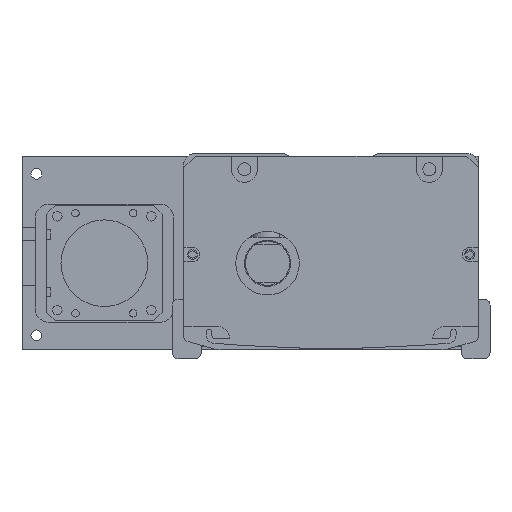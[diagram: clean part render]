
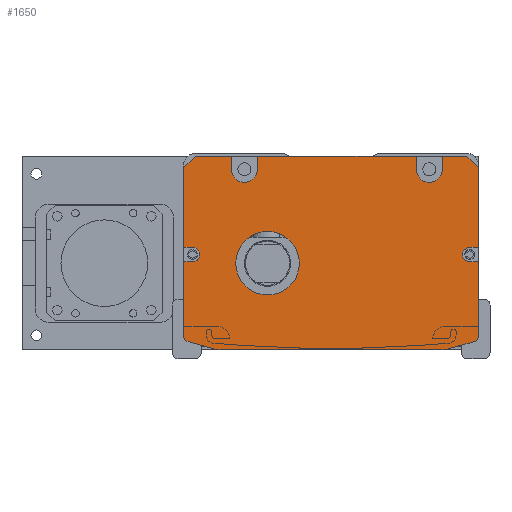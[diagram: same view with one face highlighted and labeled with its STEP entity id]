
A CAD part, front view. The second image highlights one B-rep face of the part: STEP entity #1650.
In plain terms, the highlighted planar face has unit normal (0, -1, 0).
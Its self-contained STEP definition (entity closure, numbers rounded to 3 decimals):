
#1650=ADVANCED_FACE('',(#4348,#4349),#2344,.F.);
#2344=PLANE('',#13833);
#2648=LINE('',#19323,#3453);
#2652=LINE('',#19331,#3457);
#2662=LINE('',#19352,#3467);
#2666=LINE('',#19360,#3471);
#2935=LINE('',#20353,#3740);
#2936=LINE('',#20355,#3741);
#2937=LINE('',#20357,#3742);
#2938=LINE('',#20361,#3743);
#2939=LINE('',#20363,#3744);
#2940=LINE('',#20365,#3745);
#2941=LINE('',#20369,#3746);
#2942=LINE('',#20371,#3747);
#2943=LINE('',#20373,#3748);
#2944=LINE('',#20374,#3749);
#2945=LINE('',#20378,#3750);
#2946=LINE('',#20381,#3751);
#2947=LINE('',#20385,#3752);
#2948=LINE('',#20389,#3753);
#2949=LINE('',#20392,#3754);
#2950=LINE('',#20396,#3755);
#3453=VECTOR('',#15129,1.);
#3457=VECTOR('',#15133,1.);
#3467=VECTOR('',#15145,1.);
#3471=VECTOR('',#15149,1.);
#3740=VECTOR('',#16214,1.);
#3741=VECTOR('',#16215,1.);
#3742=VECTOR('',#16216,1.);
#3743=VECTOR('',#16219,1.);
#3744=VECTOR('',#16220,1.);
#3745=VECTOR('',#16221,1.);
#3746=VECTOR('',#16224,1.);
#3747=VECTOR('',#16225,1.);
#3748=VECTOR('',#16226,1.);
#3749=VECTOR('',#16227,1.);
#3750=VECTOR('',#16230,1.);
#3751=VECTOR('',#16233,1.);
#3752=VECTOR('',#16236,1.);
#3753=VECTOR('',#16239,1.);
#3754=VECTOR('',#16242,1.);
#3755=VECTOR('',#16245,1.);
#4348=FACE_BOUND('',#5092,.T.);
#4349=FACE_BOUND('',#5093,.T.);
#5092=EDGE_LOOP('',(#7022,#7023,#7024,#7025,#7026,#7027,#7028,#7029,#7030,
#7031,#7032,#7033,#7034,#7035,#7036,#7037,#7038,#7039,#7040,#7041,#7042,
#7043,#7044,#7045,#7046,#7047,#7048,#7049));
#5093=EDGE_LOOP('',(#7050));
#7022=ORIENTED_EDGE('',*,*,#10986,.T.);
#7023=ORIENTED_EDGE('',*,*,#11470,.T.);
#7024=ORIENTED_EDGE('',*,*,#11471,.T.);
#7025=ORIENTED_EDGE('',*,*,#11472,.F.);
#7026=ORIENTED_EDGE('',*,*,#11473,.T.);
#7027=ORIENTED_EDGE('',*,*,#11474,.F.);
#7028=ORIENTED_EDGE('',*,*,#11475,.T.);
#7029=ORIENTED_EDGE('',*,*,#11476,.F.);
#7030=ORIENTED_EDGE('',*,*,#11477,.T.);
#7031=ORIENTED_EDGE('',*,*,#11478,.F.);
#7032=ORIENTED_EDGE('',*,*,#11479,.T.);
#7033=ORIENTED_EDGE('',*,*,#11480,.T.);
#7034=ORIENTED_EDGE('',*,*,#11004,.T.);
#7035=ORIENTED_EDGE('',*,*,#11481,.T.);
#7036=ORIENTED_EDGE('',*,*,#11482,.T.);
#7037=ORIENTED_EDGE('',*,*,#11483,.T.);
#7038=ORIENTED_EDGE('',*,*,#11000,.T.);
#7039=ORIENTED_EDGE('',*,*,#11484,.T.);
#7040=ORIENTED_EDGE('',*,*,#11485,.T.);
#7041=ORIENTED_EDGE('',*,*,#11486,.T.);
#7042=ORIENTED_EDGE('',*,*,#11487,.T.);
#7043=ORIENTED_EDGE('',*,*,#11488,.T.);
#7044=ORIENTED_EDGE('',*,*,#11489,.T.);
#7045=ORIENTED_EDGE('',*,*,#11490,.T.);
#7046=ORIENTED_EDGE('',*,*,#10990,.T.);
#7047=ORIENTED_EDGE('',*,*,#11491,.T.);
#7048=ORIENTED_EDGE('',*,*,#11492,.T.);
#7049=ORIENTED_EDGE('',*,*,#11493,.T.);
#7050=ORIENTED_EDGE('',*,*,#11494,.T.);
#9679=VERTEX_POINT('',#19322);
#9680=VERTEX_POINT('',#19324);
#9683=VERTEX_POINT('',#19330);
#9684=VERTEX_POINT('',#19332);
#9693=VERTEX_POINT('',#19351);
#9694=VERTEX_POINT('',#19353);
#9697=VERTEX_POINT('',#19359);
#9698=VERTEX_POINT('',#19361);
#10024=VERTEX_POINT('',#20354);
#10025=VERTEX_POINT('',#20356);
#10026=VERTEX_POINT('',#20358);
#10027=VERTEX_POINT('',#20360);
#10028=VERTEX_POINT('',#20362);
#10029=VERTEX_POINT('',#20364);
#10030=VERTEX_POINT('',#20366);
#10031=VERTEX_POINT('',#20368);
#10032=VERTEX_POINT('',#20370);
#10033=VERTEX_POINT('',#20372);
#10034=VERTEX_POINT('',#20375);
#10035=VERTEX_POINT('',#20377);
#10036=VERTEX_POINT('',#20380);
#10037=VERTEX_POINT('',#20382);
#10038=VERTEX_POINT('',#20384);
#10039=VERTEX_POINT('',#20386);
#10040=VERTEX_POINT('',#20388);
#10041=VERTEX_POINT('',#20390);
#10042=VERTEX_POINT('',#20393);
#10043=VERTEX_POINT('',#20395);
#10044=VERTEX_POINT('',#20398);
#10986=EDGE_CURVE('',#9680,#9679,#2648,.T.);
#10990=EDGE_CURVE('',#9684,#9683,#2652,.T.);
#11000=EDGE_CURVE('',#9694,#9693,#2662,.T.);
#11004=EDGE_CURVE('',#9698,#9697,#2666,.T.);
#11470=EDGE_CURVE('',#9679,#10024,#2935,.T.);
#11471=EDGE_CURVE('',#10024,#10025,#2936,.T.);
#11472=EDGE_CURVE('',#10026,#10025,#2937,.T.);
#11473=EDGE_CURVE('',#10026,#10027,#12884,.T.);
#11474=EDGE_CURVE('',#10028,#10027,#2938,.T.);
#11475=EDGE_CURVE('',#10028,#10029,#2939,.T.);
#11476=EDGE_CURVE('',#10030,#10029,#2940,.T.);
#11477=EDGE_CURVE('',#10030,#10031,#12885,.T.);
#11478=EDGE_CURVE('',#10032,#10031,#2941,.T.);
#11479=EDGE_CURVE('',#10032,#10033,#2942,.T.);
#11480=EDGE_CURVE('',#10033,#9698,#2943,.T.);
#11481=EDGE_CURVE('',#9697,#10034,#2944,.T.);
#11482=EDGE_CURVE('',#10034,#10035,#12886,.T.);
#11483=EDGE_CURVE('',#10035,#9694,#2945,.T.);
#11484=EDGE_CURVE('',#9693,#10036,#12887,.T.);
#11485=EDGE_CURVE('',#10036,#10037,#2946,.T.);
#11486=EDGE_CURVE('',#10037,#10038,#12888,.T.);
#11487=EDGE_CURVE('',#10038,#10039,#2947,.T.);
#11488=EDGE_CURVE('',#10039,#10040,#12889,.T.);
#11489=EDGE_CURVE('',#10040,#10041,#2948,.T.);
#11490=EDGE_CURVE('',#10041,#9684,#12890,.T.);
#11491=EDGE_CURVE('',#9683,#10042,#2949,.T.);
#11492=EDGE_CURVE('',#10042,#10043,#12891,.T.);
#11493=EDGE_CURVE('',#10043,#9680,#2950,.T.);
#11494=EDGE_CURVE('',#10044,#10044,#12892,.T.);
#12884=CIRCLE('',#13824,4.5);
#12885=CIRCLE('',#13825,4.5);
#12886=CIRCLE('',#13826,2.5);
#12887=CIRCLE('',#13827,2.);
#12888=CIRCLE('',#13828,10.);
#12889=CIRCLE('',#13829,10.);
#12890=CIRCLE('',#13830,2.);
#12891=CIRCLE('',#13831,2.5);
#12892=CIRCLE('',#13832,11.);
#13824=AXIS2_PLACEMENT_3D('',#20359,#16217,#16218);
#13825=AXIS2_PLACEMENT_3D('',#20367,#16222,#16223);
#13826=AXIS2_PLACEMENT_3D('',#20376,#16228,#16229);
#13827=AXIS2_PLACEMENT_3D('',#20379,#16231,#16232);
#13828=AXIS2_PLACEMENT_3D('',#20383,#16234,#16235);
#13829=AXIS2_PLACEMENT_3D('',#20387,#16237,#16238);
#13830=AXIS2_PLACEMENT_3D('',#20391,#16240,#16241);
#13831=AXIS2_PLACEMENT_3D('',#20394,#16243,#16244);
#13832=AXIS2_PLACEMENT_3D('',#20397,#16246,#16247);
#13833=AXIS2_PLACEMENT_3D('',#20399,#16248,#16249);
#15129=DIRECTION('',(0.,0.,1.));
#15133=DIRECTION('',(0.,0.,1.));
#15145=DIRECTION('',(0.,0.,-1.));
#15149=DIRECTION('',(0.,0.,-1.));
#16214=DIRECTION('',(-0.707,0.,0.707));
#16215=DIRECTION('',(-1.,0.,0.));
#16216=DIRECTION('',(0.,0.,1.));
#16217=DIRECTION('',(0.,1.,0.));
#16218=DIRECTION('',(0.,0.,1.));
#16219=DIRECTION('',(0.,0.,-1.));
#16220=DIRECTION('',(-1.,0.,0.));
#16221=DIRECTION('',(0.,0.,1.));
#16222=DIRECTION('',(0.,1.,0.));
#16223=DIRECTION('',(0.,0.,1.));
#16224=DIRECTION('',(0.,0.,-1.));
#16225=DIRECTION('',(-1.,0.,0.));
#16226=DIRECTION('',(-0.707,0.,-0.707));
#16227=DIRECTION('',(1.,0.,0.));
#16228=DIRECTION('',(0.,1.,0.));
#16229=DIRECTION('',(0.,0.,1.));
#16230=DIRECTION('',(-1.,0.,0.));
#16231=DIRECTION('',(0.,-1.,0.));
#16232=DIRECTION('',(0.,0.,1.));
#16233=DIRECTION('',(0.963,0.,-0.269));
#16234=DIRECTION('',(0.,-1.,0.));
#16235=DIRECTION('',(0.,0.,1.));
#16236=DIRECTION('',(1.,0.,0.));
#16237=DIRECTION('',(0.,-1.,0.));
#16238=DIRECTION('',(0.,0.,-1.));
#16239=DIRECTION('',(0.963,0.,0.269));
#16240=DIRECTION('',(0.,-1.,0.));
#16241=DIRECTION('',(0.,0.,-1.));
#16242=DIRECTION('',(-1.,0.,0.));
#16243=DIRECTION('',(0.,1.,0.));
#16244=DIRECTION('',(0.,0.,1.));
#16245=DIRECTION('',(1.,0.,0.));
#16246=DIRECTION('',(0.,1.,0.));
#16247=DIRECTION('',(0.,0.,1.));
#16248=DIRECTION('',(0.,1.,0.));
#16249=DIRECTION('',(1.,0.,0.));
#19322=CARTESIAN_POINT('',(47.808,-667.5,-5.));
#19323=CARTESIAN_POINT('',(47.808,-667.5,-1.));
#19324=CARTESIAN_POINT('',(47.808,-667.5,-32.5));
#19330=CARTESIAN_POINT('',(47.808,-667.5,-37.5));
#19331=CARTESIAN_POINT('',(47.808,-667.5,-1.));
#19332=CARTESIAN_POINT('',(47.808,-667.5,-63.212));
#19351=CARTESIAN_POINT('',(-54.192,-667.5,-63.212));
#19352=CARTESIAN_POINT('',(-54.192,-667.5,-62.));
#19353=CARTESIAN_POINT('',(-54.192,-667.5,-37.5));
#19359=CARTESIAN_POINT('',(-54.192,-667.5,-32.5));
#19360=CARTESIAN_POINT('',(-54.192,-667.5,-62.));
#19361=CARTESIAN_POINT('',(-54.192,-667.5,-5.));
#20353=CARTESIAN_POINT('',(43.808,-667.5,-1.));
#20354=CARTESIAN_POINT('',(43.808,-667.5,-1.));
#20355=CARTESIAN_POINT('',(-3.192,-667.5,-1.));
#20356=CARTESIAN_POINT('',(35.308,-667.5,-1.));
#20357=CARTESIAN_POINT('',(35.308,-667.5,-1.));
#20358=CARTESIAN_POINT('',(35.308,-667.5,-5.5));
#20359=CARTESIAN_POINT('',(30.808,-667.5,-5.5));
#20360=CARTESIAN_POINT('',(26.308,-667.5,-5.5));
#20361=CARTESIAN_POINT('',(26.308,-667.5,-1.));
#20362=CARTESIAN_POINT('',(26.308,-667.5,-1.));
#20363=CARTESIAN_POINT('',(-54.192,-667.5,-1.));
#20364=CARTESIAN_POINT('',(-28.692,-667.5,-1.));
#20365=CARTESIAN_POINT('',(-28.692,-667.5,-3.5));
#20366=CARTESIAN_POINT('',(-28.692,-667.5,-5.5));
#20367=CARTESIAN_POINT('',(-33.192,-667.5,-5.5));
#20368=CARTESIAN_POINT('',(-37.692,-667.5,-5.5));
#20369=CARTESIAN_POINT('',(-37.692,-667.5,-1.));
#20370=CARTESIAN_POINT('',(-37.692,-667.5,-1.));
#20371=CARTESIAN_POINT('',(-54.192,-667.5,-1.));
#20372=CARTESIAN_POINT('',(-50.192,-667.5,-1.));
#20373=CARTESIAN_POINT('',(-54.192,-667.5,-5.));
#20374=CARTESIAN_POINT('',(-3.192,-667.5,-32.5));
#20375=CARTESIAN_POINT('',(-51.192,-667.5,-32.5));
#20376=CARTESIAN_POINT('',(-51.192,-667.5,-35.));
#20377=CARTESIAN_POINT('',(-51.192,-667.5,-37.5));
#20378=CARTESIAN_POINT('',(-3.192,-667.5,-37.5));
#20379=CARTESIAN_POINT('',(-52.192,-667.5,-63.212));
#20380=CARTESIAN_POINT('',(-52.731,-667.5,-65.138));
#20381=CARTESIAN_POINT('',(-55.807,-667.5,-64.279));
#20382=CARTESIAN_POINT('',(-43.809,-667.5,-67.631));
#20383=CARTESIAN_POINT('',(-41.118,-667.5,-58.));
#20384=CARTESIAN_POINT('',(-41.118,-667.5,-68.));
#20385=CARTESIAN_POINT('',(-54.692,-667.5,-68.));
#20386=CARTESIAN_POINT('',(34.733,-667.5,-68.));
#20387=CARTESIAN_POINT('',(34.733,-667.5,-58.));
#20388=CARTESIAN_POINT('',(37.424,-667.5,-67.631));
#20389=CARTESIAN_POINT('',(49.422,-667.5,-64.279));
#20390=CARTESIAN_POINT('',(46.346,-667.5,-65.138));
#20391=CARTESIAN_POINT('',(45.808,-667.5,-63.212));
#20392=CARTESIAN_POINT('',(-3.192,-667.5,-37.5));
#20393=CARTESIAN_POINT('',(44.808,-667.5,-37.5));
#20394=CARTESIAN_POINT('',(44.808,-667.5,-35.));
#20395=CARTESIAN_POINT('',(44.808,-667.5,-32.5));
#20396=CARTESIAN_POINT('',(-3.192,-667.5,-32.5));
#20397=CARTESIAN_POINT('',(-25.192,-667.5,-38.));
#20398=CARTESIAN_POINT('',(-25.192,-667.5,-27.));
#20399=CARTESIAN_POINT('',(-3.192,-667.5,-1.));
